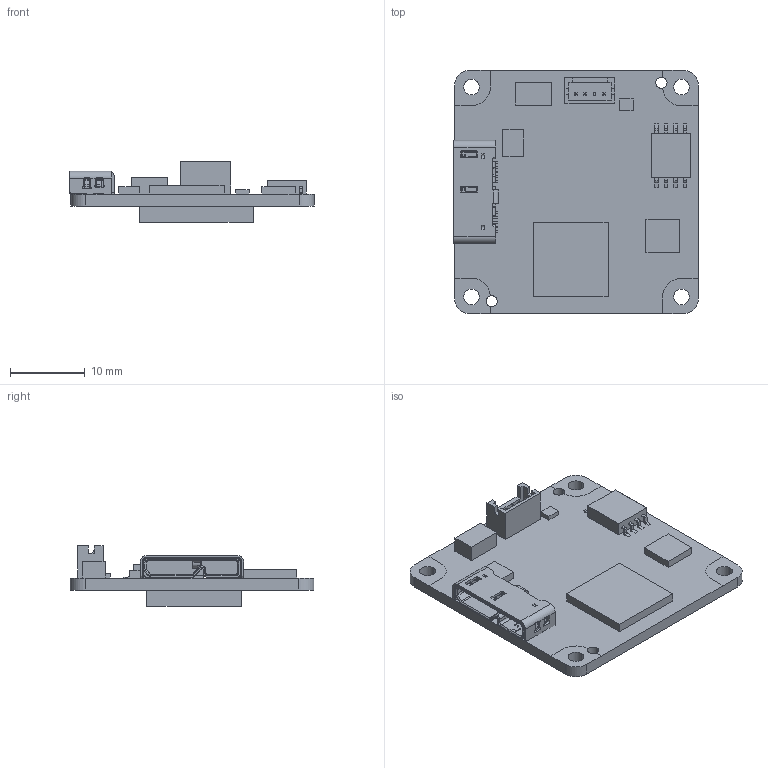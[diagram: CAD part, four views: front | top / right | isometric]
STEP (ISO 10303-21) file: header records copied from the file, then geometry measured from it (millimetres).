
FILE_DESCRIPTION (( 'STEP AP203' ), '1' );
FILE_NAME ('ven_830_u3(single board)_user_s1.0.0.STEP', '2022-03-01T10:10:00', ( '' ), ( '' ), 'SwSTEP 2.0', 'SolidWorks 2016', '' );
FILE_SCHEMA (( 'CONFIG_CONTROL_DESIGN' ));
Length unit declared in the file: millimetre
Products named in the file (1): ven_830_u3(single board)_user_s1.0.0
Bounding box: 32.64 x 32.5 x 8.05 mm (x, y, z)
Volume: 2525.3 mm3; surface area: 3542 mm2
Topology: 4 solids, 5 shells, 943 faces, 2730 edges, 1791 vertices
Faces by surface type: plane 636, cylinder 281, cone 14, torus 12
Entity records: 31842 total; most frequent: CARTESIAN_POINT 6984, ORIENTED_EDGE 5460, DIRECTION 4792, EDGE_CURVE 2730, LINE 2016, VECTOR 2016, VERTEX_POINT 1791, AXIS2_PLACEMENT_3D 1388
